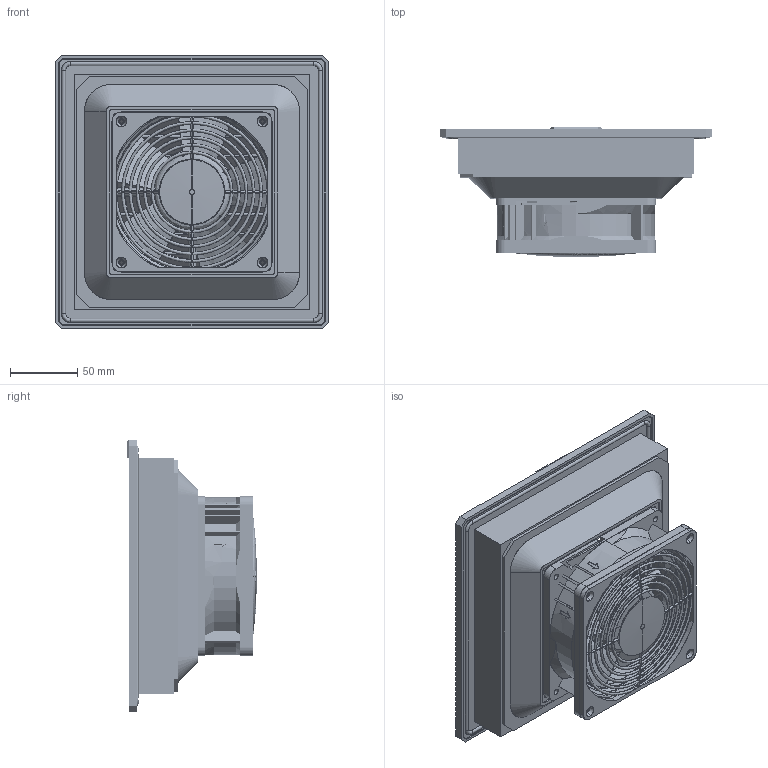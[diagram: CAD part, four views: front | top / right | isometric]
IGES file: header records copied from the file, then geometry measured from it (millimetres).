
Start section: SolidWorks IGES file using analytic representation for surfaces
Global section: file name: C:\PDMWTemp\PF 3x000.IGS; native system: SolidWorks 2007; preprocessor: SolidWorks 2007; author: AHoltz; date: 070529.111454; units: millimetre
Bounding box: 202.5 x 96.44 x 202.5 mm (x, y, z)
Surface area: 370661.6 mm2 (no closed solid volume)
Topology: 0 solids, 0 shells, 2685 faces, 29061 edges, 29022 vertices
Faces by surface type: bspline 2172, revolution 513
